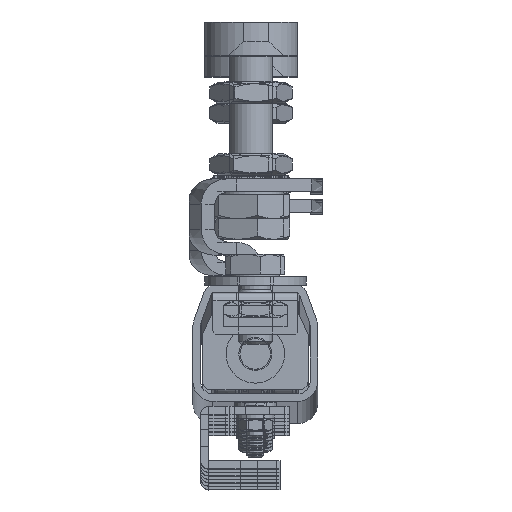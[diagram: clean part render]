
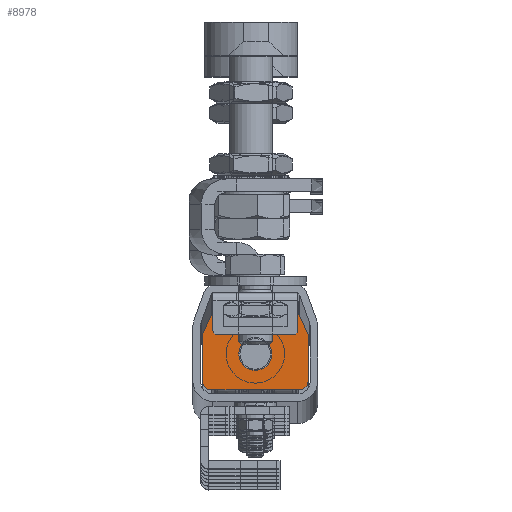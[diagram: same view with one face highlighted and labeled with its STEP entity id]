
A CAD part, top view. The second image highlights one B-rep face of the part: STEP entity #8978.
In plain terms, the highlighted planar face has unit normal (0, 0, 1) as drawn and (1, 0, 0) by its records, which use the part's own axes.
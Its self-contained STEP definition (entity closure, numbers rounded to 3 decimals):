
#471=FACE_BOUND('',#1583,.T.);
#574=PLANE('',#10001);
#1052=FACE_OUTER_BOUND('',#1582,.T.);
#1582=EDGE_LOOP('',(#6604,#6605,#6606,#6607,#6608,#6609,#6610,#6611,#6612,
#6613));
#1583=EDGE_LOOP('',(#6614));
#2166=LINE('',#14155,#2902);
#2190=LINE('',#14226,#2926);
#2195=LINE('',#14240,#2931);
#2199=LINE('',#14252,#2935);
#2202=LINE('',#14258,#2938);
#2205=LINE('',#14264,#2941);
#2209=LINE('',#14275,#2945);
#2212=LINE('',#14280,#2948);
#2902=VECTOR('',#11237,10.);
#2926=VECTOR('',#11315,10.);
#2931=VECTOR('',#11328,10.);
#2935=VECTOR('',#11340,10.);
#2938=VECTOR('',#11345,10.);
#2941=VECTOR('',#11350,10.);
#2945=VECTOR('',#11362,10.);
#2948=VECTOR('',#11369,10.);
#3611=CIRCLE('',#9986,2.);
#3613=CIRCLE('',#9990,2.);
#3616=CIRCLE('',#9997,3.65);
#4129=VERTEX_POINT('',#14136);
#4134=VERTEX_POINT('',#14147);
#4153=VERTEX_POINT('',#14224);
#4154=VERTEX_POINT('',#14225);
#4157=VERTEX_POINT('',#14233);
#4159=VERTEX_POINT('',#14239);
#4161=VERTEX_POINT('',#14245);
#4163=VERTEX_POINT('',#14251);
#4165=VERTEX_POINT('',#14257);
#4167=VERTEX_POINT('',#14263);
#4170=VERTEX_POINT('',#14271);
#5037=EDGE_CURVE('',#4134,#4129,#2166,.T.);
#5071=EDGE_CURVE('',#4153,#4154,#2190,.T.);
#5075=EDGE_CURVE('',#4157,#4153,#3611,.T.);
#5078=EDGE_CURVE('',#4159,#4157,#2195,.T.);
#5081=EDGE_CURVE('',#4161,#4159,#3613,.T.);
#5084=EDGE_CURVE('',#4163,#4161,#2199,.T.);
#5087=EDGE_CURVE('',#4165,#4163,#2202,.T.);
#5090=EDGE_CURVE('',#4154,#4167,#2205,.T.);
#5095=EDGE_CURVE('',#4170,#4170,#3616,.T.);
#5096=EDGE_CURVE('',#4134,#4165,#2209,.T.);
#5099=EDGE_CURVE('',#4167,#4129,#2212,.T.);
#6604=ORIENTED_EDGE('',*,*,#5037,.T.);
#6605=ORIENTED_EDGE('',*,*,#5099,.F.);
#6606=ORIENTED_EDGE('',*,*,#5090,.F.);
#6607=ORIENTED_EDGE('',*,*,#5071,.F.);
#6608=ORIENTED_EDGE('',*,*,#5075,.F.);
#6609=ORIENTED_EDGE('',*,*,#5078,.F.);
#6610=ORIENTED_EDGE('',*,*,#5081,.F.);
#6611=ORIENTED_EDGE('',*,*,#5084,.F.);
#6612=ORIENTED_EDGE('',*,*,#5087,.F.);
#6613=ORIENTED_EDGE('',*,*,#5096,.F.);
#6614=ORIENTED_EDGE('',*,*,#5095,.T.);
#8978=ADVANCED_FACE('',(#1052,#471),#574,.T.);
#9986=AXIS2_PLACEMENT_3D('',#14234,#11321,#11322);
#9990=AXIS2_PLACEMENT_3D('',#14246,#11333,#11334);
#9997=AXIS2_PLACEMENT_3D('',#14273,#11358,#11359);
#10001=AXIS2_PLACEMENT_3D('',#14281,#11370,#11371);
#11237=DIRECTION('',(0.,1.,0.));
#11315=DIRECTION('',(0.,0.,-1.));
#11321=DIRECTION('center_axis',(-1.,0.,0.));
#11322=DIRECTION('ref_axis',(0.,1.,0.));
#11328=DIRECTION('',(0.,1.,0.));
#11333=DIRECTION('center_axis',(-1.,0.,0.));
#11334=DIRECTION('ref_axis',(0.,0.,
1.));
#11340=DIRECTION('',(0.,0.,1.));
#11345=DIRECTION('',(0.,-0.414,0.91));
#11350=DIRECTION('',(0.,-0.414,-0.91));
#11358=DIRECTION('center_axis',(-1.,0.,0.));
#11359=DIRECTION('ref_axis',(0.,0.,
1.));
#11362=DIRECTION('',(0.,0.,1.));
#11369=DIRECTION('',(0.,0.,-1.));
#11370=DIRECTION('center_axis',(1.,0.,0.));
#11371=DIRECTION('ref_axis',(0.,0.,
-1.));
#14136=CARTESIAN_POINT('',(13.103,10.,2.01));
#14147=CARTESIAN_POINT('',(13.103,-10.,2.01));
#14155=CARTESIAN_POINT('',(13.103,5.,2.01));
#14224=CARTESIAN_POINT('',(13.103,12.5,20.997));
#14225=CARTESIAN_POINT('',(13.103,12.5,9.997));
#14226=CARTESIAN_POINT('',(13.103,12.5,9.997));
#14233=CARTESIAN_POINT('',(13.103,10.5,22.997));
#14234=CARTESIAN_POINT('Origin',(13.103,10.5,20.997));
#14239=CARTESIAN_POINT('',(13.103,-10.5,22.997));
#14240=CARTESIAN_POINT('',(13.103,10.5,22.997));
#14245=CARTESIAN_POINT('',(13.103,-12.5,20.997));
#14246=CARTESIAN_POINT('Origin',(13.103,-10.5,20.997));
#14251=CARTESIAN_POINT('',(13.103,-12.5,9.997));
#14252=CARTESIAN_POINT('',(13.103,-12.5,20.997));
#14257=CARTESIAN_POINT('',(13.103,-10.,4.497));
#14258=CARTESIAN_POINT('',(13.103,-12.5,9.997));
#14263=CARTESIAN_POINT('',(13.103,10.,4.497));
#14264=CARTESIAN_POINT('',(13.103,10.,4.497));
#14271=CARTESIAN_POINT('',(13.103,0.,10.847));
#14273=CARTESIAN_POINT('Origin',(13.103,0.,
14.497));
#14275=CARTESIAN_POINT('',(13.103,-10.,4.497));
#14280=CARTESIAN_POINT('',(13.103,10.,-20.103));
#14281=CARTESIAN_POINT('Origin',(13.103,0.,
1.688));
